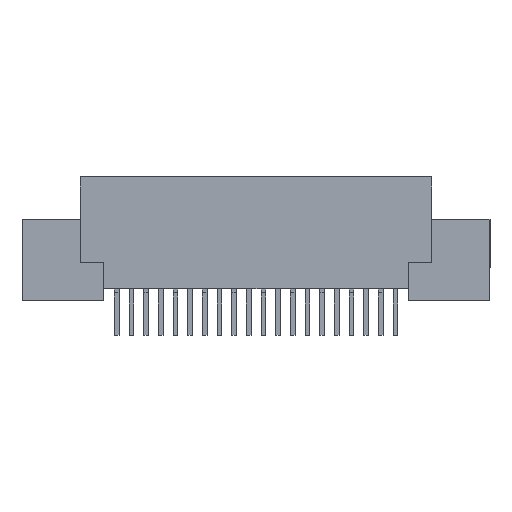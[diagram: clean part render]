
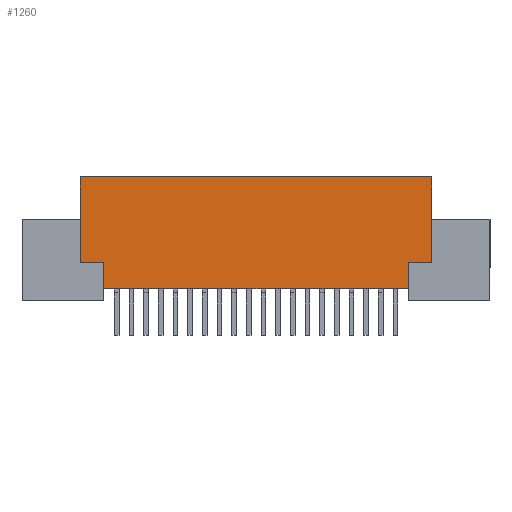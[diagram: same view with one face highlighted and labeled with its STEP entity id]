
A CAD part, front view. The second image highlights one B-rep face of the part: STEP entity #1260.
In plain terms, the highlighted planar face has unit normal (0, -1, 0).
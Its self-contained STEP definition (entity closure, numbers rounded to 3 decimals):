
#476=FACE_OUTER_BOUND('',#2046,.T.);
#1260=ADVANCED_FACE('',(#476),#1608,.T.);
#1608=PLANE('',#7749);
#2046=EDGE_LOOP('',(#2583,#2584,#2585,#2586,#2587,#2588,#2589,#2590,#2591,
#2592,#2593,#2594,#2595,#2596));
#2583=ORIENTED_EDGE('',*,*,#5545,.T.);
#2584=ORIENTED_EDGE('',*,*,#5546,.F.);
#2585=ORIENTED_EDGE('',*,*,#5547,.F.);
#2586=ORIENTED_EDGE('',*,*,#5548,.F.);
#2587=ORIENTED_EDGE('',*,*,#5543,.F.);
#2588=ORIENTED_EDGE('',*,*,#5549,.T.);
#2589=ORIENTED_EDGE('',*,*,#5550,.T.);
#2590=ORIENTED_EDGE('',*,*,#5444,.T.);
#2591=ORIENTED_EDGE('',*,*,#5551,.T.);
#2592=ORIENTED_EDGE('',*,*,#5552,.T.);
#2593=ORIENTED_EDGE('',*,*,#5553,.F.);
#2594=ORIENTED_EDGE('',*,*,#5554,.F.);
#2595=ORIENTED_EDGE('',*,*,#5555,.F.);
#2596=ORIENTED_EDGE('',*,*,#5556,.F.);
#4652=VERTEX_POINT('',#9593);
#4658=VERTEX_POINT('',#9605);
#4755=VERTEX_POINT('',#9816);
#4756=VERTEX_POINT('',#9818);
#4757=VERTEX_POINT('',#9825);
#4758=VERTEX_POINT('',#9826);
#4759=VERTEX_POINT('',#9828);
#4760=VERTEX_POINT('',#9830);
#4761=VERTEX_POINT('',#9833);
#4762=VERTEX_POINT('',#9836);
#4763=VERTEX_POINT('',#9838);
#4764=VERTEX_POINT('',#9840);
#4765=VERTEX_POINT('',#9842);
#4766=VERTEX_POINT('',#9844);
#5444=EDGE_CURVE('',#4652,#4658,#6533,.T.);
#5543=EDGE_CURVE('',#4755,#4756,#6628,.T.);
#5545=EDGE_CURVE('',#4757,#4758,#6629,.T.);
#5546=EDGE_CURVE('',#4759,#4758,#6630,.T.);
#5547=EDGE_CURVE('',#4760,#4759,#6631,.T.);
#5548=EDGE_CURVE('',#4756,#4760,#6632,.T.);
#5549=EDGE_CURVE('',#4755,#4761,#6633,.T.);
#5550=EDGE_CURVE('',#4761,#4652,#6634,.T.);
#5551=EDGE_CURVE('',#4658,#4762,#6635,.T.);
#5552=EDGE_CURVE('',#4762,#4763,#6636,.T.);
#5553=EDGE_CURVE('',#4764,#4763,#6637,.T.);
#5554=EDGE_CURVE('',#4765,#4764,#6638,.T.);
#5555=EDGE_CURVE('',#4766,#4765,#6639,.T.);
#5556=EDGE_CURVE('',#4757,#4766,#6640,.T.);
#6533=LINE('',#9606,#7180);
#6628=LINE('',#9817,#7275);
#6629=LINE('',#9824,#7276);
#6630=LINE('',#9827,#7277);
#6631=LINE('',#9829,#7278);
#6632=LINE('',#9831,#7279);
#6633=LINE('',#9832,#7280);
#6634=LINE('',#9834,#7281);
#6635=LINE('',#9835,#7282);
#6636=LINE('',#9837,#7283);
#6637=LINE('',#9839,#7284);
#6638=LINE('',#9841,#7285);
#6639=LINE('',#9843,#7286);
#6640=LINE('',#9845,#7287);
#7180=VECTOR('',#8178,1.);
#7275=VECTOR('',#8279,1.);
#7276=VECTOR('',#8282,1.);
#7277=VECTOR('',#8283,1.);
#7278=VECTOR('',#8284,1.);
#7279=VECTOR('',#8285,1.);
#7280=VECTOR('',#8286,1.);
#7281=VECTOR('',#8287,1.);
#7282=VECTOR('',#8288,1.);
#7283=VECTOR('',#8289,1.);
#7284=VECTOR('',#8290,1.);
#7285=VECTOR('',#8291,1.);
#7286=VECTOR('',#8292,1.);
#7287=VECTOR('',#8293,1.);
#7749=AXIS2_PLACEMENT_3D('',#9846,#8294,#8295);
#8178=DIRECTION('',(1.,0.,0.));
#8279=DIRECTION('',(0.,0.,1.));
#8282=DIRECTION('',(-1.,0.,0.));
#8283=DIRECTION('',(0.,0.,1.));
#8284=DIRECTION('',(0.,0.,1.));
#8285=DIRECTION('',(-1.,0.,0.));
#8286=DIRECTION('',(1.,0.,0.));
#8287=DIRECTION('',(0.,0.,1.));
#8288=DIRECTION('',(0.,0.,-1.));
#8289=DIRECTION('',(1.,0.,0.));
#8290=DIRECTION('',(0.,0.,-1.));
#8291=DIRECTION('',(-1.,0.,0.));
#8292=DIRECTION('',(0.,0.,-1.));
#8293=DIRECTION('',(0.,0.,-1.));
#8294=DIRECTION('',(0.,-1.,0.));
#8295=DIRECTION('',(1.,0.,0.));
#9593=CARTESIAN_POINT('',(4.572,-3.302,0.991));
#9605=CARTESIAN_POINT('',(30.98,-3.302,0.991));
#9606=CARTESIAN_POINT('',(-15.879,-3.302,0.991));
#9816=CARTESIAN_POINT('',(4.568,-3.302,0.));
#9817=CARTESIAN_POINT('',(4.568,-3.302,7.455));
#9818=CARTESIAN_POINT('',(4.568,-3.302,3.302));
#9824=CARTESIAN_POINT('',(-15.879,-3.302,10.693));
#9825=CARTESIAN_POINT('',(33.016,-3.302,10.693));
#9826=CARTESIAN_POINT('',(2.536,-3.302,10.693));
#9827=CARTESIAN_POINT('',(2.536,-3.302,5.207));
#9828=CARTESIAN_POINT('',(2.536,-3.302,7.036));
#9829=CARTESIAN_POINT('',(2.536,-3.302,1.435));
#9830=CARTESIAN_POINT('',(2.536,-3.302,3.302));
#9831=CARTESIAN_POINT('',(1.52,-3.302,3.302));
#9832=CARTESIAN_POINT('',(-15.879,-3.302,0.));
#9833=CARTESIAN_POINT('',(4.572,-3.302,0.));
#9834=CARTESIAN_POINT('',(4.572,-3.302,19.393));
#9835=CARTESIAN_POINT('',(30.98,-3.302,19.393));
#9836=CARTESIAN_POINT('',(30.98,-3.302,0.));
#9837=CARTESIAN_POINT('',(-33.659,-3.302,0.));
#9838=CARTESIAN_POINT('',(30.984,-3.302,0.));
#9839=CARTESIAN_POINT('',(30.984,-3.302,-9.157));
#9840=CARTESIAN_POINT('',(30.984,-3.302,3.302));
#9841=CARTESIAN_POINT('',(29.968,-3.302,3.302));
#9842=CARTESIAN_POINT('',(33.016,-3.302,3.302));
#9843=CARTESIAN_POINT('',(33.016,-3.302,1.435));
#9844=CARTESIAN_POINT('',(33.016,-3.302,7.036));
#9845=CARTESIAN_POINT('',(33.016,-3.302,5.207));
#9846=CARTESIAN_POINT('',(-15.879,-3.302,19.393));
